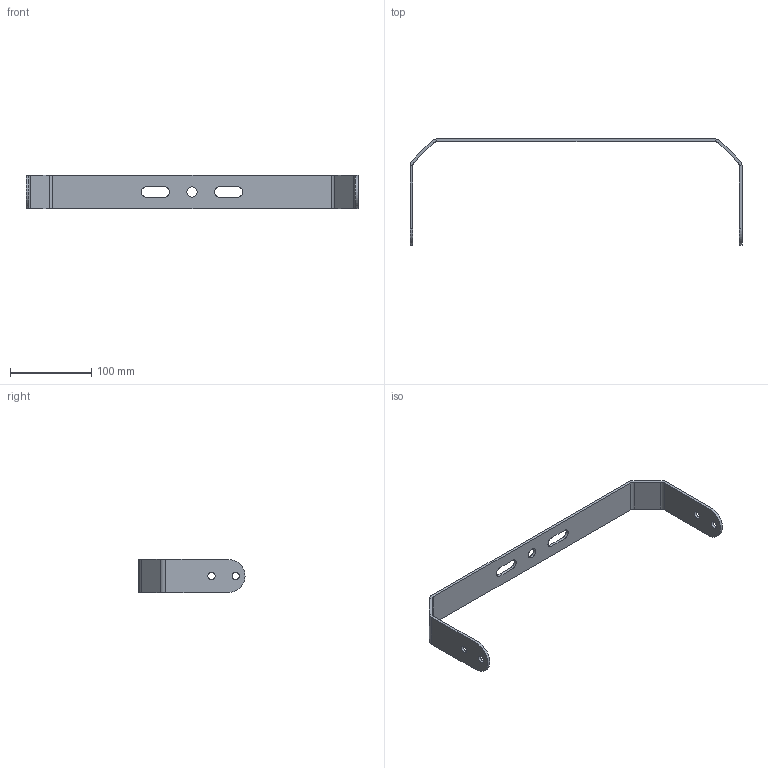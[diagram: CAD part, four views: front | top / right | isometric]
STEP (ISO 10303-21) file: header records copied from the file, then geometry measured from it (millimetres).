
FILE_DESCRIPTION (( 'STEP AP214' ), '1' );
FILE_NAME ('EPL-HB-150LED-RT Trunnion.STEP', '2021-01-15T17:40:37', ( '' ), ( '' ), 'SwSTEP 2.0', 'SolidWorks 2020', '' );
FILE_SCHEMA (( 'AUTOMOTIVE_DESIGN' ));
Length unit declared in the file: inch
Products named in the file (1): EPL-HB-150LED-RT Trunnion
Bounding box: 408.18 x 130.43 x 40.64 mm (x, y, z)
Volume: 82216.1 mm3; surface area: 53518 mm2
Topology: 1 solids, 1 shells, 56 faces, 130 edges, 76 vertices
Faces by surface type: plane 32, cylinder 24
Entity records: 1634 total; most frequent: DIRECTION 292, CARTESIAN_POINT 263, ORIENTED_EDGE 260, EDGE_CURVE 130, AXIS2_PLACEMENT_3D 105, VECTOR 82, LINE 82, VERTEX_POINT 76
